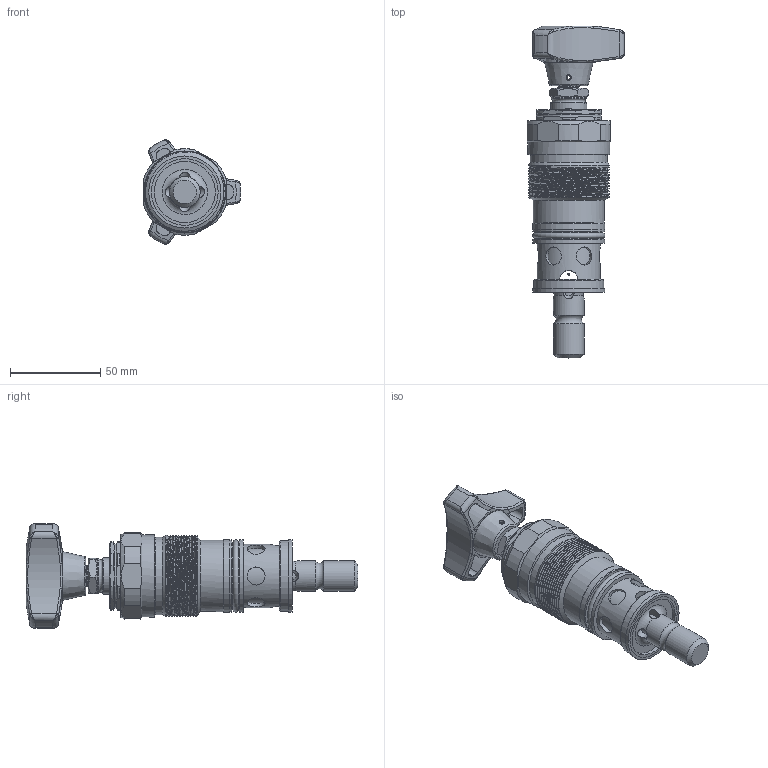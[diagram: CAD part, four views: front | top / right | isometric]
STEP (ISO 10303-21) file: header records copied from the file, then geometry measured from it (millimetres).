
FILE_DESCRIPTION(/* description */ (''),/* implementation_level */ '2;1');
FILE_NAME(/* name */ 'DBDH20K-1XJ插入式直动型溢流阀.prt.stp',/* time_stamp */ '2022-03-30T20:13:58+08:00',/* author */ (''),/* organization */ (''),/* preprocessor_version */ 'ST-DEVELOPER v16.7',/* originating_system */ 'SIEMENS PLM Software NX 12.0',/* authorisation */ '');
FILE_SCHEMA (('AUTOMOTIVE_DESIGN { 1 0 10303 214 3 1 1 1 }'));
Length unit declared in the file: millimetre
Products named in the file (1): DBDH20K-1XJ插入式直动型溢流阀
Bounding box: 53.97 x 184 x 57.72 mm (x, y, z)
Volume: 178261.1 mm3; surface area: 47246.9 mm2
Topology: 14 solids, 15 shells, 511 faces, 1230 edges, 747 vertices
Faces by surface type: plane 234, cylinder 120, cone 65, bspline 50, torus 42
Full cylindrical faces by diameter (mm): 1 x1, 3 x2, 3.1 x2, 5.4 x2, 6 x5, 9.7 x1, 10 x9, 10.2 x2, 10.976 x1, 17 x2, 19.7 x1, 20 x1, 28 x1, 28.5 x1, 30 x1, 31 x1, 33.8 x1, 35 x1, 35.2 x1, 35.3 x1, 36 x1, 37 x2, 39 x1, 39.4 x1, 40 x4, 42.9 x1, 45.5 x1
Entity records: 24872 total; most frequent: CARTESIAN_POINT 14290, ORIENTED_EDGE 2170, DIRECTION 1983, EDGE_CURVE 1085, AXIS2_PLACEMENT_3D 835, VERTEX_POINT 708, EDGE_LOOP 631, ADVANCED_FACE 511
